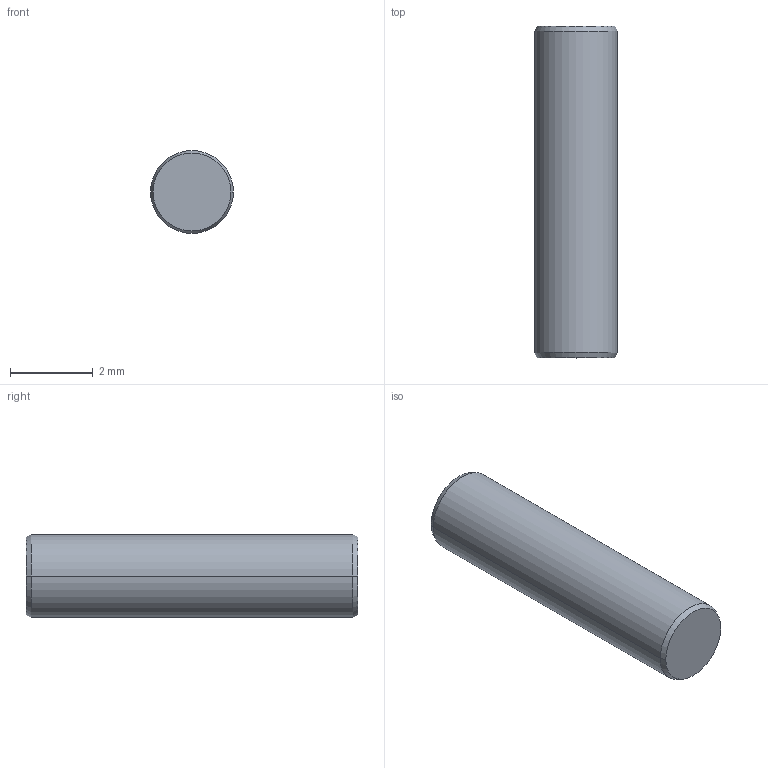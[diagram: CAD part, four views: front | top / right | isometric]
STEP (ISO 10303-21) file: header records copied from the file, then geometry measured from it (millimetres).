
FILE_DESCRIPTION((''),'2;1');
FILE_NAME('PIN','2024-02-21T17:12:19',('qinghui.yi'),(''),'CREO PARAMETRIC BY PTC INC, 2019164','CREO PARAMETRIC BY PTC INC, 2019164','');
FILE_SCHEMA(('CONFIG_CONTROL_DESIGN','SHAPE_APPEARANCE_LAYERS_GROUPS'));
Length unit declared in the file: millimetre
Products named in the file (1): PIN
Bounding box: 2 x 8 x 2 mm (x, y, z)
Volume: 25.1 mm3; surface area: 55.9 mm2
Topology: 1 solids, 1 shells, 8 faces, 17 edges, 14 vertices
Faces by surface type: cone 4, plane 2, cylinder 2
Entity records: 593 total; most frequent: COLOUR_RGB 312, DIRECTION 43, CARTESIAN_POINT 34, ORIENTED_EDGE 28, AXIS2_PLACEMENT_3D 17, EDGE_CURVE 14, VECTOR 9, LINE 9
